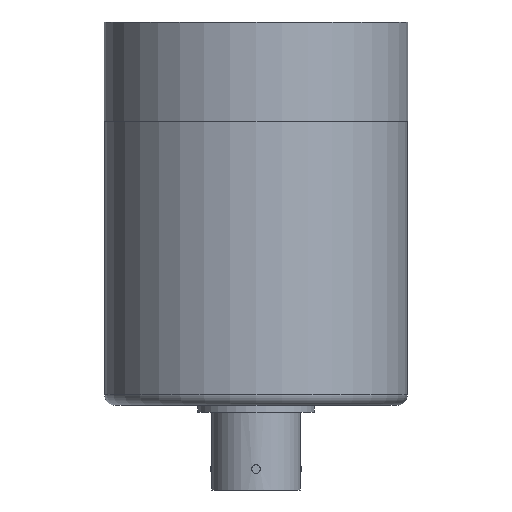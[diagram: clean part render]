
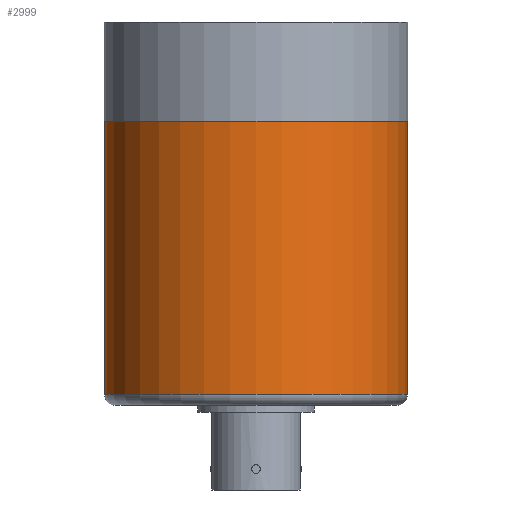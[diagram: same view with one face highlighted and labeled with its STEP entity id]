
A CAD part, front view. The second image highlights one B-rep face of the part: STEP entity #2999.
In plain terms, the highlighted cylindrical face has radius 20.574 mm (diameter 41.148 mm), a partial arc.
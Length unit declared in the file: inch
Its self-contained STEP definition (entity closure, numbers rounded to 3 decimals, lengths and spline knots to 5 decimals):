
#835 = CYLINDRICAL_SURFACE ( 'NONE', #836, 0.81 ) ;
#836 = AXIS2_PLACEMENT_3D ( 'NONE', #900, #899, #898 ) ;
#837 = FACE_OUTER_BOUND ( 'NONE', #3000, .T. ) ;
#838 = DIRECTION ( 'NONE',  ( 1., 0., 0. ) ) ;
#839 = DIRECTION ( 'NONE',  ( 0., 0., 1. ) ) ;
#840 = CARTESIAN_POINT ( 'NONE',  ( 0., 0., -1.99 ) ) ;
#841 = AXIS2_PLACEMENT_3D ( 'NONE', #840, #839, #838 ) ;
#842 = CIRCLE ( 'NONE', #841, 0.81 ) ;
#898 = DIRECTION ( 'NONE',  ( 1., 0., 0. ) ) ;
#899 = DIRECTION ( 'NONE',  ( 0., 0., 1. ) ) ;
#900 = CARTESIAN_POINT ( 'NONE',  ( 0., 0., 0.06268 ) ) ;
#1328 = DIRECTION ( 'NONE',  ( 1., 0., 0. ) ) ;
#1329 = DIRECTION ( 'NONE',  ( 0., 0., 1. ) ) ;
#1330 = CARTESIAN_POINT ( 'NONE',  ( 0., 0., -0.53 ) ) ;
#1331 = AXIS2_PLACEMENT_3D ( 'NONE', #1330, #1329, #1328 ) ;
#1332 = CIRCLE ( 'NONE', #1331, 0.81 ) ;
#2283 = CARTESIAN_POINT ( 'NONE',  ( 0.81, 0., -0.53 ) ) ;
#2330 = CARTESIAN_POINT ( 'NONE',  ( 0.81, 0., -1.99 ) ) ;
#2331 = DIRECTION ( 'NONE',  ( 0., 0., 1. ) ) ;
#2332 = VECTOR ( 'NONE', #2331, 39.37008 ) ;
#2333 = CARTESIAN_POINT ( 'NONE',  ( 0.81, 0., 0.06268 ) ) ;
#2334 = LINE ( 'NONE', #2333, #2332 ) ;
#2373 = CARTESIAN_POINT ( 'NONE',  ( -0.81, 0., -1.99 ) ) ;
#2374 = CARTESIAN_POINT ( 'NONE',  ( -0.81, 0., -0.53 ) ) ;
#2375 = DIRECTION ( 'NONE',  ( 0., 0., 1. ) ) ;
#2376 = VECTOR ( 'NONE', #2375, 39.37008 ) ;
#2377 = CARTESIAN_POINT ( 'NONE',  ( -0.81, 0., 0.06268 ) ) ;
#2378 = LINE ( 'NONE', #2377, #2376 ) ;
#2998 = EDGE_CURVE ( 'NONE', #3514, #3506, #842, .T. ) ;
#2999 = ADVANCED_FACE ( 'NONE', ( #837 ), #835, .T. ) ;
#3000 = EDGE_LOOP ( 'NONE', ( #3001, #3038, #3041, #3042 ) ) ;
#3001 = ORIENTED_EDGE ( 'NONE', *, *, #3511, .F. ) ;
#3038 = ORIENTED_EDGE ( 'NONE', *, *, #2998, .T. ) ;
#3041 = ORIENTED_EDGE ( 'NONE', *, *, #3505, .T. ) ;
#3042 = ORIENTED_EDGE ( 'NONE', *, *, #3132, .F. ) ;
#3132 = EDGE_CURVE ( 'NONE', #3512, #3489, #1332, .T. ) ;
#3489 = VERTEX_POINT ( 'NONE', #2283 ) ;
#3505 = EDGE_CURVE ( 'NONE', #3506, #3489, #2334, .T. ) ;
#3506 = VERTEX_POINT ( 'NONE', #2330 ) ;
#3511 = EDGE_CURVE ( 'NONE', #3514, #3512, #2378, .T. ) ;
#3512 = VERTEX_POINT ( 'NONE', #2374 ) ;
#3514 = VERTEX_POINT ( 'NONE', #2373 ) ;
